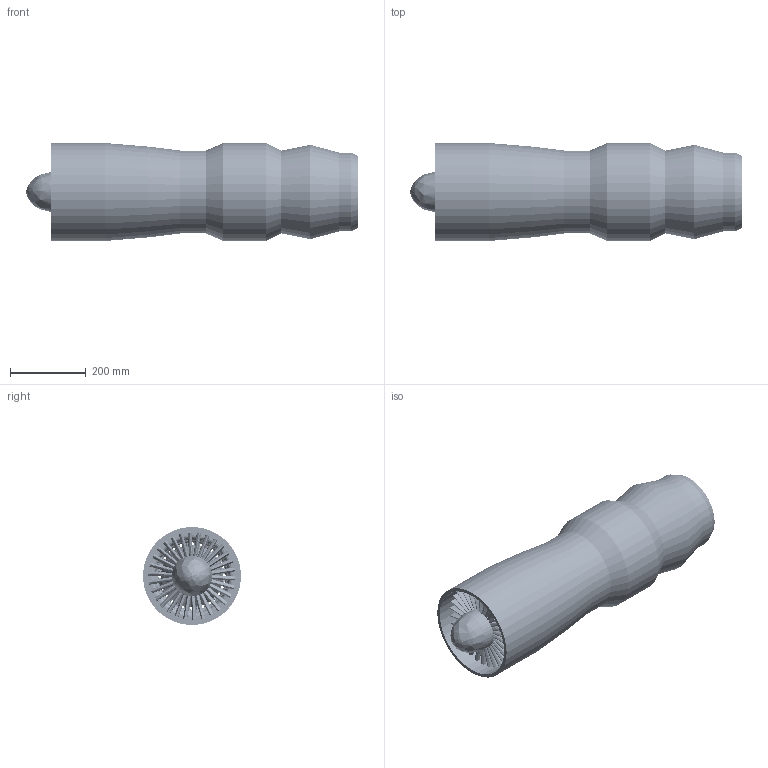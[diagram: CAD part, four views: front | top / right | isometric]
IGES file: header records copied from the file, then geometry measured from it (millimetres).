
Start section: SolidWorks IGES file using analytic representation for surfaces
Global section: file name: C:\Users\Akshaya Simha\Documents\SOLIDWORKS Downloads\Gas Turbine\Assem1.IGS; native system: SolidWorks 2016; preprocessor: SolidWorks 2016; author: Akshaya Simha; date: 180412.184913; units: millimetre
Bounding box: 877 x 258.56 x 258.56 mm (x, y, z)
Surface area: 2535260.9 mm2 (no closed solid volume)
Topology: 0 solids, 0 shells, 1516 faces, 49382 edges, 49378 vertices
Faces by surface type: bspline 990, revolution 526
